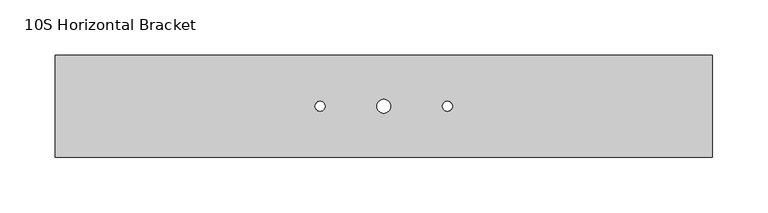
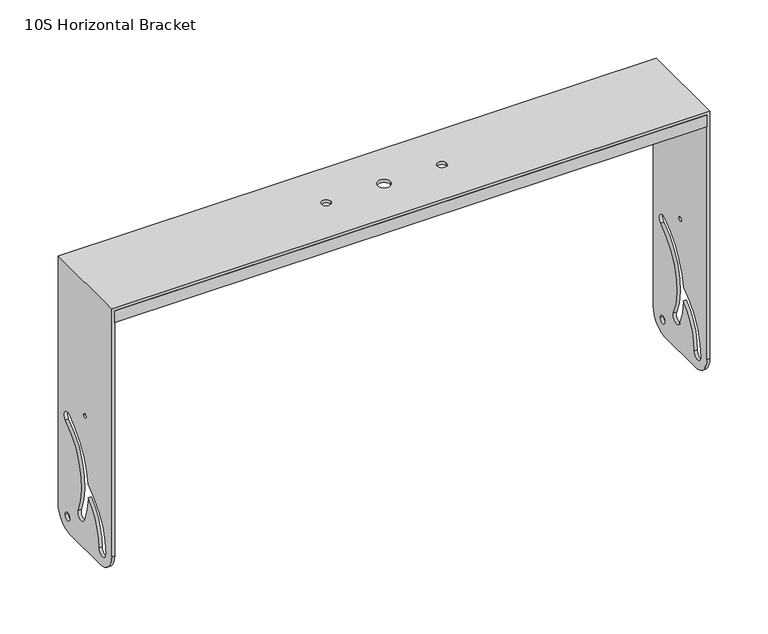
"""IFC4 building model written with IfcOpenShell, lengths in millimetres: proxy geometry, d&b xS-Series 10S Horizontal Bracket : 10S Horizontal Bracket."""

from ifc_helpers import new_model, si_unit, frame, origin, place, context, project, spatial, polyline, circle_curve, outline, extrude, source, transform, mapped, element, save
from ifc_brep_helpers import plane_surface, cylinder_surface, revolved_surface, advanced_brep


def proxy_10s_horizontal_bracket_ba3221e5(model_context):
    return source(origin(), model_context, "Body", "SolidModel", [
        extrude(outline(polyline([(-294.0, -65.7393957), (-294.0, -62.7393957), (294.0, -62.7393957), (294.0, -65.7393957), (-294.0, -65.7393957)])), frame((0.0, 0.0, 272.7707456), z_axis=(0.0, 0.0, 1.0), x_axis=(1.0, 0.0, 0.0)), (0.0, 0.0, 1.0), 12.0),
        extrude(outline(polyline([(-294.0, 23.2606043), (-294.0, 26.2606043), (294.0, 26.2606043), (294.0, 23.2606043), (-294.0, 23.2606043)])), frame((0.0, 0.0, 272.7707456), z_axis=(0.0, 0.0, 1.0), x_axis=(1.0, 0.0, 0.0)), (0.0, 0.0, 1.0), 12.0),
        advanced_brep(
        [(-294.0, 26.2606043, 284.7707456), (-294.0, 26.2606043, 27.7707456), (-297.0, 26.2606043, 27.7707456), (-297.0, 26.2606043, 287.7707456), (297.0, 26.2606043, 287.7707456), (297.0, 26.2606043, 27.7707456), (294.0, 26.2606043, 27.7707456), (294.0, 26.2606043, 284.7707456), (-297.0, -65.7393957, 287.7707456), (-297.0, -65.7393957, 27.7707456), (-294.0, -65.7393957, 27.7707456), (-294.0, -65.7393957, 284.7707456), (294.0, -65.7393957, 284.7707456), (294.0, -65.7393957, 27.7707456), (297.0, -65.7393957, 27.7707456), (297.0, -65.7393957, 287.7707456), (-297.0, 6.2606043, 7.7707456), (-294.0, 6.2606043, 7.7707456), (-294.0, -45.7393957, 7.7707456), (-297.0, -45.7393957, 7.7707456), (-294.0, 6.2606043, 23.7707456), (-294.0, 14.2606043, 23.7707456), (-294.0, -55.239364, 23.7891854), (-294.0, -25.0822236, 78.9466081), (-294.0, 7.223679, 132.2617377), (-294.0, 13.6600188, 123.3378724), (-294.0, -8.4105059, 41.8172211), (-294.0, -18.3552834, 37.1160087), (-294.0, -25.5071972, 64.9060793), (-294.0, -44.2393971, 23.7734128), (-294.0, -21.7393957, 147.7707456), (-294.0, -17.7393957, 147.7707456), (-6.25, -19.7393957, 284.7707456), (6.25, -19.7393957, 284.7707456), (-62.0, -19.7393957, 284.7707456), (-53.0, -19.7393957, 284.7707456), (62.0, -19.7393957, 284.7707456), (53.0, -19.7393957, 284.7707456), (294.0, 6.2606043, 7.7707456), (294.0, -45.7393957, 7.7707456), (294.0, 14.2606043, 23.7707456), (294.0, 6.2606043, 23.7707456), (294.0, -44.2393971, 23.7734128), (294.0, -25.5071972, 64.9060793), (294.0, -18.3552834, 37.1160087), (294.0, -8.4105059, 41.8172211), (294.0, 13.6600188, 123.3378724), (294.0, 7.2266422, 132.2574429), (294.0, -25.0822236, 78.9466081), (294.0, -55.239364, 23.7891854), (294.0, -17.7393957, 147.7707456), (294.0, -21.7393957, 147.7707456), (297.0, 6.2606043, 7.7707456), (297.0, -45.7393957, 7.7707456), (297.0, 6.2606043, 23.7707456), (297.0, 14.2606043, 23.7707456), (297.0, -55.239364, 23.7891854), (297.0, -25.0822236, 78.9466081), (297.0, 7.223679, 132.2617377), (297.0, 13.6600188, 123.3378724), (297.0, -8.4105059, 41.8172211), (297.0, -18.3552834, 37.1160087), (297.0, -25.5071972, 64.9060793), (297.0, -44.2393971, 23.7734128), (297.0, -21.7393957, 147.7707456), (297.0, -17.7393957, 147.7707456), (6.25, -19.7393957, 287.7707456), (-6.25, -19.7393957, 287.7707456), (-53.0, -19.7393957, 287.7707456), (-62.0, -19.7393957, 287.7707456), (53.0, -19.7393957, 287.7707456), (62.0, -19.7393957, 287.7707456), (-297.0, 14.2606043, 23.7707456), (-297.0, 6.2606043, 23.7707456), (-297.0, -44.2393971, 23.7734128), (-297.0, -25.5071972, 64.9060793), (-297.0, -18.3552834, 37.1160087), (-297.0, -8.4105059, 41.8172211), (-297.0, 13.6600188, 123.3378724), (-297.0, 7.2266422, 132.2574429), (-297.0, -25.0822236, 78.9466081), (-297.0, -55.239364, 23.7891854), (-297.0, -17.7393957, 147.7707456), (-297.0, -21.7393957, 147.7707456)],
        [
            (0, 1),
            (1, 2),
            (2, 3),
            (3, 4),
            (4, 5),
            (5, 6),
            (6, 7),
            (7, 0),
            (8, 9),
            (9, 10),
            (10, 11),
            (11, 12),
            (12, 13),
            (13, 14),
            (14, 15),
            (15, 8),
            (16, 17),
            (17, 18),
            (18, 19),
            (19, 16),
            (10, 18, circle_curve(frame((-294.0, -45.7393957, 27.7707456), z_axis=(1.0, 0.0, 0.0), x_axis=(0.0, 0.0, -1.0)), 20.0)),
            (17, 1, circle_curve(frame((-294.0, 6.2606043, 27.7707456), z_axis=(1.0, 0.0, 0.0), x_axis=(0.0, 0.0, -1.0)), 20.0)),
            (0, 11),
            (20, 21, circle_curve(frame((-294.0, 10.2606043, 23.7707456), z_axis=(-1.0, 0.0, 0.0), x_axis=(0.0, -1.0, 0.0)), 4.0)),
            (21, 20, circle_curve(frame((-294.0, 10.2606043, 23.7707456), z_axis=(-1.0, 0.0, 0.0), x_axis=(0.0, -1.0, 0.0)), 4.0)),
            (22, 23, circle_curve(frame((-294.0, 10.4991012, 23.6697649), z_axis=(-1.0, 0.0, 0.0), x_axis=(0.0, -1.0, 0.0)), 65.7385737)),
            (23, 24, circle_curve(frame((-294.0, 50.4326597, 69.6342558), z_axis=(-1.0, 0.0, 0.0), x_axis=(0.0, -1.0, 0.0)), 76.0869076)),
            (24, 25, circle_curve(frame((-294.0, 10.3500362, 127.7303677), z_axis=(-1.0, 0.0, 0.0), x_axis=(0.0, -1.0, 0.0)), 5.5)),
            (25, 26, circle_curve(frame((-294.0, 50.4326597, 69.6342558), z_axis=(1.0, 0.0, 0.0), x_axis=(0.0, -1.0, 0.0)), 65.0869077)),
            (26, 27, circle_curve(frame((-294.0, -13.3828946, 39.4666149), z_axis=(-1.0, 0.0, 0.0), x_axis=(0.0, -1.0, 0.0)), 5.5)),
            (27, 28, circle_curve(frame((-294.0, 50.4326597, 69.6342558), z_axis=(-1.0, 0.0, 0.0), x_axis=(0.0, -1.0, 0.0)), 76.0869077)),
            (28, 29, circle_curve(frame((-294.0, 10.2288078, 23.799827), z_axis=(1.0, 0.0, 0.0), x_axis=(0.0, -1.0, 0.0)), 54.4682113)),
            (29, 22, circle_curve(frame((-294.0, -49.7393957, 23.7707456), z_axis=(-1.0, 0.0, 0.0), x_axis=(0.0, -1.0, 0.0)), 5.4999992)),
            (30, 31, circle_curve(frame((-294.0, -19.7393957, 147.7707456), z_axis=(-1.0, 0.0, 0.0), x_axis=(0.0, -1.0, 0.0)), 2.0)),
            (31, 30, circle_curve(frame((-294.0, -19.7393957, 147.7707456), z_axis=(-1.0, 0.0, 0.0), x_axis=(0.0, -1.0, 0.0)), 2.0)),
            (7, 12),
            (32, 33, circle_curve(frame((0.0, -19.7393957, 284.7707456), z_axis=(0.0, 0.0, 1.0), x_axis=(1.0, 0.0, 0.0)), 6.25)),
            (33, 32, circle_curve(frame((0.0, -19.7393957, 284.7707456), z_axis=(0.0, 0.0, 1.0), x_axis=(1.0, 0.0, 0.0)), 6.25)),
            (34, 35, circle_curve(frame((-57.5, -19.7393957, 284.7707456), z_axis=(0.0, 0.0, 1.0), x_axis=(1.0, 0.0, 0.0)), 4.5)),
            (35, 34, circle_curve(frame((-57.5, -19.7393957, 284.7707456), z_axis=(0.0, 0.0, 1.0), x_axis=(1.0, 0.0, 0.0)), 4.5)),
            (36, 37, circle_curve(frame((57.5, -19.7393957, 284.7707456), z_axis=(0.0, 0.0, 1.0), x_axis=(-1.0, 0.0, 0.0)), 4.5)),
            (37, 36, circle_curve(frame((57.5, -19.7393957, 284.7707456), z_axis=(0.0, 0.0, 1.0), x_axis=(-1.0, 0.0, 0.0)), 4.5)),
            (6, 38, circle_curve(frame((294.0, 6.2606043, 27.7707456), z_axis=(-1.0, 0.0, 0.0), x_axis=(0.0, 0.0, -1.0)), 20.0)),
            (38, 39),
            (39, 13, circle_curve(frame((294.0, -45.7393957, 27.7707456), z_axis=(-1.0, 0.0, 0.0), x_axis=(0.0, 0.0, -1.0)), 20.0)),
            (40, 41, circle_curve(frame((294.0, 10.2606043, 23.7707456), z_axis=(1.0, 0.0, 0.0), x_axis=(0.0, -1.0, 0.0)), 4.0)),
            (41, 40, circle_curve(frame((294.0, 10.2606043, 23.7707456), z_axis=(1.0, 0.0, 0.0), x_axis=(0.0, -1.0, 0.0)), 4.0)),
            (42, 43, circle_curve(frame((294.0, 10.2288078, 23.799827), z_axis=(-1.0, 0.0, 0.0), x_axis=(0.0, -1.0, 0.0)), 54.4682113)),
            (43, 44, circle_curve(frame((294.0, 50.4326597, 69.6342558), z_axis=(1.0, 0.0, 0.0), x_axis=(0.0, -1.0, 0.0)), 76.0869077)),
            (44, 45, circle_curve(frame((294.0, -13.3828946, 39.4666149), z_axis=(1.0, 0.0, 0.0), x_axis=(0.0, -1.0, 0.0)), 5.5)),
            (45, 46, circle_curve(frame((294.0, 50.4326597, 69.6342558), z_axis=(-1.0, 0.0, 0.0), x_axis=(0.0, -1.0, 0.0)), 65.0869077)),
            (46, 47, circle_curve(frame((294.0, 10.3500362, 127.7303677), z_axis=(1.0, 0.0, 0.0), x_axis=(0.0, -1.0, 0.0)), 5.5)),
            (47, 48, circle_curve(frame((294.0, 50.4326597, 69.6342558), z_axis=(1.0, 0.0, 0.0), x_axis=(0.0, -1.0, 0.0)), 76.0869076)),
            (48, 49, circle_curve(frame((294.0, 10.4991012, 23.6697649), z_axis=(1.0, 0.0, 0.0), x_axis=(0.0, -1.0, 0.0)), 65.7385737)),
            (49, 42, circle_curve(frame((294.0, -49.7393957, 23.7707456), z_axis=(1.0, 0.0, 0.0), x_axis=(0.0, -1.0, 0.0)), 5.4999992)),
            (50, 51, circle_curve(frame((294.0, -19.7393957, 147.7707456), z_axis=(1.0, 0.0, 0.0), x_axis=(0.0, -1.0, 0.0)), 2.0)),
            (51, 50, circle_curve(frame((294.0, -19.7393957, 147.7707456), z_axis=(1.0, 0.0, 0.0), x_axis=(0.0, -1.0, 0.0)), 2.0)),
            (38, 52),
            (52, 53),
            (53, 39),
            (14, 53, circle_curve(frame((297.0, -45.7393957, 27.7707456), z_axis=(1.0, 0.0, 0.0), x_axis=(0.0, 0.0, -1.0)), 20.0)),
            (52, 5, circle_curve(frame((297.0, 6.2606043, 27.7707456), z_axis=(1.0, 0.0, 0.0), x_axis=(0.0, 0.0, -1.0)), 20.0)),
            (4, 15),
            (54, 55, circle_curve(frame((297.0, 10.2606043, 23.7707456), z_axis=(-1.0, 0.0, 0.0), x_axis=(0.0, -1.0, 0.0)), 4.0)),
            (55, 54, circle_curve(frame((297.0, 10.2606043, 23.7707456), z_axis=(-1.0, 0.0, 0.0), x_axis=(0.0, -1.0, 0.0)), 4.0)),
            (56, 57, circle_curve(frame((297.0, 10.4991012, 23.6697649), z_axis=(-1.0, 0.0, 0.0), x_axis=(0.0, -1.0, 0.0)), 65.7385737)),
            (57, 58, circle_curve(frame((297.0, 50.4326597, 69.6342558), z_axis=(-1.0, 0.0, 0.0), x_axis=(0.0, -1.0, 0.0)), 76.0869076)),
            (58, 59, circle_curve(frame((297.0, 10.3500362, 127.7303677), z_axis=(-1.0, 0.0, 0.0), x_axis=(0.0, -1.0, 0.0)), 5.5)),
            (59, 60, circle_curve(frame((297.0, 50.4326597, 69.6342558), z_axis=(1.0, 0.0, 0.0), x_axis=(0.0, -1.0, 0.0)), 65.0869077)),
            (60, 61, circle_curve(frame((297.0, -13.3828946, 39.4666149), z_axis=(-1.0, 0.0, 0.0), x_axis=(0.0, -1.0, 0.0)), 5.5)),
            (61, 62, circle_curve(frame((297.0, 50.4326597, 69.6342558), z_axis=(-1.0, 0.0, 0.0), x_axis=(0.0, -1.0, 0.0)), 76.0869077)),
            (62, 63, circle_curve(frame((297.0, 10.2288078, 23.799827), z_axis=(1.0, 0.0, 0.0), x_axis=(0.0, -1.0, 0.0)), 54.4682113)),
            (63, 56, circle_curve(frame((297.0, -49.7393957, 23.7707456), z_axis=(-1.0, 0.0, 0.0), x_axis=(0.0, -1.0, 0.0)), 5.4999992)),
            (64, 65, circle_curve(frame((297.0, -19.7393957, 147.7707456), z_axis=(-1.0, 0.0, 0.0), x_axis=(0.0, -1.0, 0.0)), 2.0)),
            (65, 64, circle_curve(frame((297.0, -19.7393957, 147.7707456), z_axis=(-1.0, 0.0, 0.0), x_axis=(0.0, -1.0, 0.0)), 2.0)),
            (3, 8),
            (66, 67, circle_curve(frame((0.0, -19.7393957, 287.7707456), z_axis=(0.0, 0.0, -1.0), x_axis=(1.0, 0.0, 0.0)), 6.25)),
            (67, 66, circle_curve(frame((0.0, -19.7393957, 287.7707456), z_axis=(0.0, 0.0, -1.0), x_axis=(1.0, 0.0, 0.0)), 6.25)),
            (68, 69, circle_curve(frame((-57.5, -19.7393957, 287.7707456), z_axis=(0.0, 0.0, -1.0), x_axis=(1.0, 0.0, 0.0)), 4.5)),
            (69, 68, circle_curve(frame((-57.5, -19.7393957, 287.7707456), z_axis=(0.0, 0.0, -1.0), x_axis=(1.0, 0.0, 0.0)), 4.5)),
            (70, 71, circle_curve(frame((57.5, -19.7393957, 287.7707456), z_axis=(0.0, 0.0, -1.0), x_axis=(-1.0, 0.0, 0.0)), 4.5)),
            (71, 70, circle_curve(frame((57.5, -19.7393957, 287.7707456), z_axis=(0.0, 0.0, -1.0), x_axis=(-1.0, 0.0, 0.0)), 4.5)),
            (2, 16, circle_curve(frame((-297.0, 6.2606043, 27.7707456), z_axis=(-1.0, 0.0, 0.0), x_axis=(0.0, 0.0, -1.0)), 20.0)),
            (19, 9, circle_curve(frame((-297.0, -45.7393957, 27.7707456), z_axis=(-1.0, 0.0, 0.0), x_axis=(0.0, 0.0, -1.0)), 20.0)),
            (72, 73, circle_curve(frame((-297.0, 10.2606043, 23.7707456), z_axis=(1.0, 0.0, 0.0), x_axis=(0.0, -1.0, 0.0)), 4.0)),
            (73, 72, circle_curve(frame((-297.0, 10.2606043, 23.7707456), z_axis=(1.0, 0.0, 0.0), x_axis=(0.0, -1.0, 0.0)), 4.0)),
            (74, 75, circle_curve(frame((-297.0, 10.2288078, 23.799827), z_axis=(-1.0, 0.0, 0.0), x_axis=(0.0, -1.0, 0.0)), 54.4682113)),
            (75, 76, circle_curve(frame((-297.0, 50.4326597, 69.6342558), z_axis=(1.0, 0.0, 0.0), x_axis=(0.0, -1.0, 0.0)), 76.0869077)),
            (76, 77, circle_curve(frame((-297.0, -13.3828946, 39.4666149), z_axis=(1.0, 0.0, 0.0), x_axis=(0.0, -1.0, 0.0)), 5.5)),
            (77, 78, circle_curve(frame((-297.0, 50.4326597, 69.6342558), z_axis=(-1.0, 0.0, 0.0), x_axis=(0.0, -1.0, 0.0)), 65.0869077)),
            (78, 79, circle_curve(frame((-297.0, 10.3500362, 127.7303677), z_axis=(1.0, 0.0, 0.0), x_axis=(0.0, -1.0, 0.0)), 5.5)),
            (79, 80, circle_curve(frame((-297.0, 50.4326597, 69.6342558), z_axis=(1.0, 0.0, 0.0), x_axis=(0.0, -1.0, 0.0)), 76.0869076)),
            (80, 81, circle_curve(frame((-297.0, 10.4991012, 23.6697649), z_axis=(1.0, 0.0, 0.0), x_axis=(0.0, -1.0, 0.0)), 65.7385737)),
            (81, 74, circle_curve(frame((-297.0, -49.7393957, 23.7707456), z_axis=(1.0, 0.0, 0.0), x_axis=(0.0, -1.0, 0.0)), 5.4999992)),
            (82, 83, circle_curve(frame((-297.0, -19.7393957, 147.7707456), z_axis=(1.0, 0.0, 0.0), x_axis=(0.0, -1.0, 0.0)), 2.0)),
            (83, 82, circle_curve(frame((-297.0, -19.7393957, 147.7707456), z_axis=(1.0, 0.0, 0.0), x_axis=(0.0, -1.0, 0.0)), 2.0)),
            (33, 66),
            (67, 32),
            (35, 68),
            (69, 34),
            (37, 70),
            (71, 36),
            (41, 54),
            (55, 40),
            (73, 20),
            (21, 72),
            (49, 56),
            (63, 42),
            (81, 22),
            (29, 74),
            (48, 57),
            (80, 23),
            (28, 75),
            (62, 43),
            (47, 58),
            (79, 24),
            (46, 59),
            (78, 25),
            (45, 60),
            (77, 26),
            (44, 61),
            (76, 27),
            (51, 64),
            (65, 50),
            (83, 30),
            (31, 82),
        ],
        [
            plane_surface(frame((-297.0, 26.2606043, 7.7707456), z_axis=(0.0, 1.0, 0.0), x_axis=(1.0, 0.0, 0.0))),
            plane_surface(frame((-297.0, -65.7393957, 7.7707456), z_axis=(0.0, -1.0, 0.0), x_axis=(-1.0, 0.0, 0.0))),
            plane_surface(frame((-297.0, 26.2606043, 7.7707456), z_axis=(0.0, 0.0, -1.0), x_axis=(0.0, -1.0, 0.0))),
            plane_surface(frame((-294.0, 26.2606043, 7.7707456), z_axis=(1.0, 0.0, 0.0), x_axis=(0.0, -1.0, 0.0))),
            plane_surface(frame((-294.0, 26.2606043, 284.7707456), z_axis=(0.0, 0.0, -1.0), x_axis=(0.0, -1.0, 0.0))),
            plane_surface(frame((294.0, 26.2606043, 284.7707456), z_axis=(-1.0, 0.0, 0.0), x_axis=(0.0, -1.0, 0.0))),
            plane_surface(frame((294.0, 26.2606043, 7.7707456), z_axis=(0.0, 0.0, -1.0), x_axis=(0.0, -1.0, 0.0))),
            plane_surface(frame((297.0, 26.2606043, 7.7707456), z_axis=(1.0, 0.0, 0.0), x_axis=(0.0, -1.0, 0.0))),
            plane_surface(frame((297.0, 26.2606043, 287.7707456), z_axis=(0.0, 0.0, 1.0), x_axis=(0.0, -1.0, 0.0))),
            plane_surface(frame((-297.0, 26.2606043, 287.7707456), z_axis=(-1.0, 0.0, 0.0), x_axis=(0.0, -1.0, 0.0))),
            cylinder_surface(frame((-400.0, 6.2606043, 27.7707456), z_axis=(-1.0, 0.0, 0.0), x_axis=(0.0, 0.0, -1.0)), 20.0),
            cylinder_surface(frame((0.0, -45.7393957, 27.7707456), z_axis=(-1.0, 0.0, 0.0), x_axis=(0.0, 0.0, -1.0)), 20.0),
            revolved_surface(polyline([(6.25, -19.7393957, 287.7707456), (6.25, -19.7393957, 284.7707456)]), (0.0, -19.7393957, 272.7707456), (0.0, 0.0, 1.0)),
            revolved_surface(polyline([(-53.0, -19.7393957, 287.7707456), (-53.0, -19.7393957, 284.7707456)]), (-57.5, -19.7393957, 287.7707456), (0.0, 0.0, 1.0)),
            revolved_surface(polyline([(53.0, -19.7393957, 287.7707456), (53.0, -19.7393957, 284.7707456)]), (57.5, -19.7393957, 287.7707456), (0.0, 0.0, 1.0)),
            revolved_surface(polyline([(297.0, 6.260604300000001, 23.7707456), (294.0, 6.260604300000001, 23.7707456)]), (-400.0, 10.2606043, 23.7707456), (1.0, 0.0, 0.0)),
            revolved_surface(polyline([(-294.0, 6.260604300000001, 23.7707456), (-297.0, 6.260604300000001, 23.7707456)]), (-400.0, 10.2606043, 23.7707456), (1.0, 0.0, 0.0)),
            revolved_surface(polyline([(297.0, -55.2393949, 23.7707456), (294.0, -55.2393949, 23.7707456)]), (0.0, -49.7393957, 23.7707456), (1.0, 0.0, 0.0)),
            revolved_surface(polyline([(-294.0, -55.2393949, 23.7707456), (-297.0, -55.2393949, 23.7707456)]), (0.0, -49.7393957, 23.7707456), (1.0, 0.0, 0.0)),
            revolved_surface(polyline([(297.0, -55.239472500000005, 23.6697649), (294.0, -55.239472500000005, 23.6697649)]), (0.0, 10.4991012, 23.6697649), (1.0, 0.0, 0.0)),
            revolved_surface(polyline([(-294.0, -55.239472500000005, 23.6697649), (-297.0, -55.239472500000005, 23.6697649)]), (0.0, 10.4991012, 23.6697649), (1.0, 0.0, 0.0)),
            cylinder_surface(frame((0.0, 10.2288078, 23.799827), z_axis=(-1.0, 0.0, 0.0), x_axis=(0.0, -1.0, 0.0)), 54.4682113),
            revolved_surface(polyline([(297.0, -25.6542479, 69.6342558), (294.0, -25.6542479, 69.6342558)]), (0.0, 50.4326597, 69.6342558), (1.0, 0.0, 0.0)),
            revolved_surface(polyline([(-294.0, -25.6542479, 69.6342558), (-297.0, -25.6542479, 69.6342558)]), (0.0, 50.4326597, 69.6342558), (1.0, 0.0, 0.0)),
            revolved_surface(polyline([(297.0, 4.8500362, 127.7303677), (294.0, 4.8500362, 127.7303677)]), (0.0, 10.3500362, 127.7303677), (1.0, 0.0, 0.0)),
            revolved_surface(polyline([(-294.0, 4.8500362, 127.7303677), (-297.0, 4.8500362, 127.7303677)]), (0.0, 10.3500362, 127.7303677), (1.0, 0.0, 0.0)),
            cylinder_surface(frame((0.0, 50.4326597, 69.6342558), z_axis=(-1.0, 0.0, 0.0), x_axis=(0.0, -1.0, 0.0)), 65.0869077),
            revolved_surface(polyline([(297.0, -18.8828946, 39.4666149), (294.0, -18.8828946, 39.4666149)]), (0.0, -13.3828946, 39.4666149), (1.0, 0.0, 0.0)),
            revolved_surface(polyline([(-294.0, -18.8828946, 39.4666149), (-297.0, -18.8828946, 39.4666149)]), (0.0, -13.3828946, 39.4666149), (1.0, 0.0, 0.0)),
            revolved_surface(polyline([(-294.0, -25.654247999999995, 69.6342558), (-297.0, -25.654247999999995, 69.6342558)]), (0.0, 50.4326597, 69.6342558), (1.0, 0.0, 0.0)),
            revolved_surface(polyline([(297.0, -25.654247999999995, 69.6342558), (294.0, -25.654247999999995, 69.6342558)]), (0.0, 50.4326597, 69.6342558), (1.0, 0.0, 0.0)),
            revolved_surface(polyline([(297.0, -21.7393957, 147.7707456), (294.0, -21.7393957, 147.7707456)]), (0.0, -19.7393957, 147.7707456), (1.0, 0.0, 0.0)),
            revolved_surface(polyline([(-294.0, -21.7393957, 147.7707456), (-297.0, -21.7393957, 147.7707456)]), (0.0, -19.7393957, 147.7707456), (1.0, 0.0, 0.0)),
        ],
        [
            (0, [[1, 2, 3, 4, 5, 6, 7, 8]]),
            (1, [[9, 10, 11, 12, 13, 14, 15, 16]]),
            (2, [[17, 18, 19, 20]]),
            (3, [[-11, 21, -18, 22, -1, 23], [24, 25], [26, 27, 28, 29, 30, 31, 32, 33], [34, 35]]),
            (4, [[36, -12, -23, -8], [37, 38], [39, 40], [41, 42]]),
            (5, [[-7, 43, 44, 45, -13, -36], [46, 47], [48, 49, 50, 51, 52, 53, 54, 55], [56, 57]]),
            (6, [[58, 59, 60, -44]]),
            (7, [[-15, 61, -59, 62, -5, 63], [64, 65], [66, 67, 68, 69, 70, 71, 72, 73], [74, 75]]),
            (8, [[76, -16, -63, -4], [77, 78], [79, 80], [81, 82]]),
            (9, [[-3, 83, -20, 84, -9, -76], [85, 86], [87, 88, 89, 90, 91, 92, 93, 94], [95, 96]]),
            (10, [[-22, -17, -83, -2]]),
            (10, [[-62, -58, -43, -6]]),
            (11, [[-45, -60, -61, -14]]),
            (11, [[-84, -19, -21, -10]]),
            (12, [[-38, 97, -78, 98]]),
            (12, [[-77, -97, -37, -98]]),
            (13, [[-40, 99, -80, 100]]),
            (13, [[-79, -99, -39, -100]]),
            (14, [[-42, 101, -82, 102]]),
            (14, [[-81, -101, -41, -102]]),
            (15, [[-47, 103, -65, 104]]),
            (16, [[-86, 105, -25, 106]]),
            (16, [[-24, -105, -85, -106]]),
            (15, [[-64, -103, -46, -104]]),
            (17, [[-55, 107, -73, 108]]),
            (18, [[-94, 109, -33, 110]]),
            (19, [[-54, 111, -66, -107]]),
            (20, [[-93, 112, -26, -109]]),
            (21, [[-32, 113, -87, -110]]),
            (21, [[-72, 114, -48, -108]]),
            (22, [[-53, 115, -67, -111]]),
            (23, [[-92, 116, -27, -112]]),
            (24, [[-52, 117, -68, -115]]),
            (25, [[-91, 118, -28, -116]]),
            (26, [[-51, 119, -69, -117]]),
            (26, [[-90, 120, -29, -118]]),
            (27, [[-50, 121, -70, -119]]),
            (28, [[-89, 122, -30, -120]]),
            (29, [[-31, -122, -88, -113]]),
            (30, [[-71, -121, -49, -114]]),
            (31, [[-57, 123, -75, 124]]),
            (32, [[-96, 125, -35, 126]]),
            (32, [[-34, -125, -95, -126]]),
            (31, [[-74, -123, -56, -124]]),
        ],
    ),
    ])


if __name__ == "__main__":
    model = new_model("IFC4")
    model_context = context("Model", 3, world=origin())
    ifc_project = project(units=[si_unit("LENGTHUNIT", "METRE", prefix="MILLI")], contexts=[model_context])
    site = spatial("IfcSite", under=ifc_project)
    building = spatial("IfcBuilding", under=site)
    placement = place(None, origin())
    proxy_10s_horizontal_bracket_shape = proxy_10s_horizontal_bracket_ba3221e5(model_context)
    element("IfcBuildingElementProxy", 1, Name="d&b xS-Series 10S Horizontal Bracket : 10S Horizontal Bracket", ObjectType="d&b xS-Series 10S Horizontal Bracket : 10S Horizontal Bracket", at=placement, inside=building, context=model_context, shape_type="MappedRepresentation", body=[
        mapped(proxy_10s_horizontal_bracket_shape, transform((0.0, 0.0, 0.0), x_axis=(1.0, 0.0, 0.0), y_axis=(0.0, 1.0, 0.0), z_axis=(0.0, 0.0, 1.0))),
    ])
    save(model, "model.ifc")
